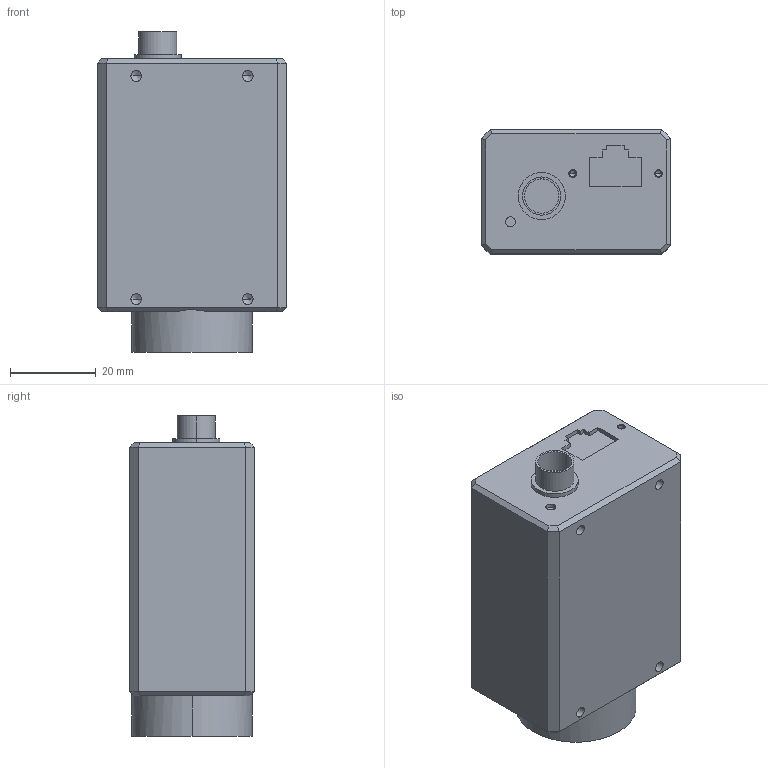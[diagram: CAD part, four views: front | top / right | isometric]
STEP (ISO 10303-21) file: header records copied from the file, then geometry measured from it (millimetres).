
FILE_DESCRIPTION((''),'2;1');
FILE_NAME('MV-CH100-60GM-SPCE','2023-03-23T21:39:26',('gengdawei'),(''),'CREO PARAMETRIC BY PTC INC, 2020044','CREO PARAMETRIC BY PTC INC, 2020044','');
FILE_SCHEMA(('CONFIG_CONTROL_DESIGN'));
Length unit declared in the file: millimetre
Products named in the file (1): MV-CH100-60GM-SPCE
Bounding box: 44 x 29 x 74.69 mm (x, y, z)
Volume: 76292.1 mm3; surface area: 12872.9 mm2
Topology: 1 solids, 3 shells, 96 faces, 230 edges, 136 vertices
Faces by surface type: plane 48, cylinder 32, cone 16
Entity records: 2698 total; most frequent: DIRECTION 476, CARTESIAN_POINT 460, ORIENTED_EDGE 420, EDGE_CURVE 214, AXIS2_PLACEMENT_3D 167, VECTOR 142, LINE 142, VERTEX_POINT 136
